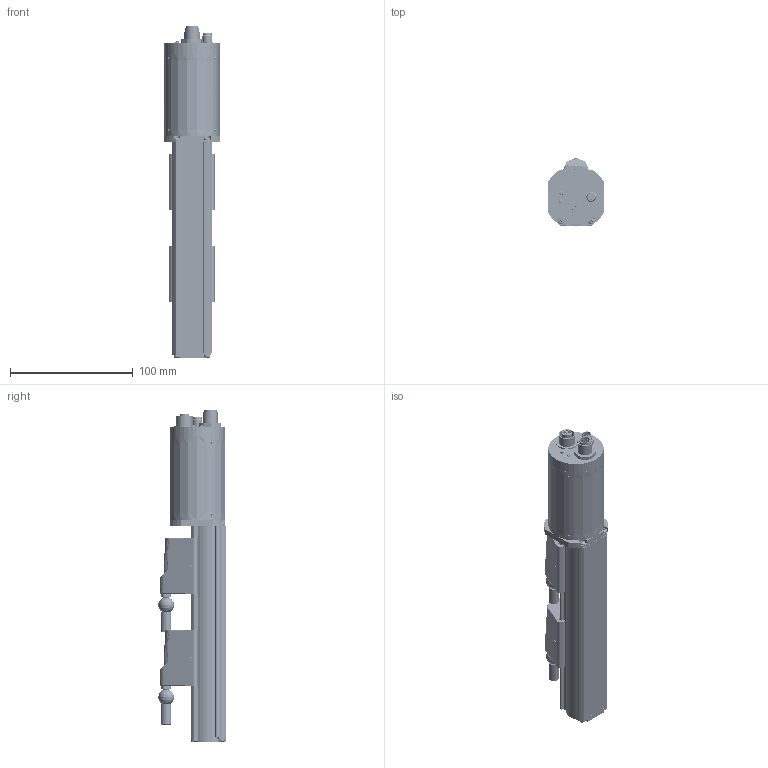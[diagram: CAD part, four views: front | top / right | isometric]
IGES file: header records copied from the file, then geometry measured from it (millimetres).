
Start section: SolidWorks IGES file using analytic representation for surfaces
Global section: file name: C:\Users\diego.babaglioni\Desktop\disegni 3D - PROFIBUS\MK4\3D\Iges 5.3\MK-4-P-0075.IGS; native system: SolidWorks 2014; preprocessor: SolidWorks 2014; author: diego.babaglioni; date: 150108.094904; units: millimetre
Bounding box: 45 x 54.88 x 270.55 mm (x, y, z)
Surface area: 105104.5 mm2 (no closed solid volume)
Topology: 0 solids, 0 shells, 3333 faces, 28744 edges, 28597 vertices
Faces by surface type: revolution 2236, bspline 1097
